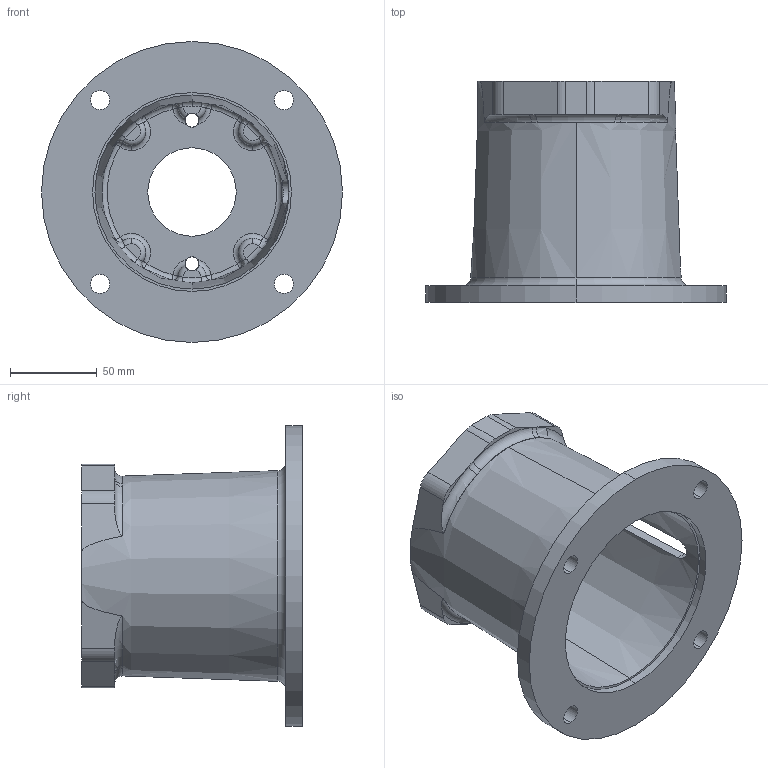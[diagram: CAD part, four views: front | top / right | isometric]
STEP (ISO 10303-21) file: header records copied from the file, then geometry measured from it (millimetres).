
FILE_DESCRIPTION (( 'STEP AP203' ), '1' );
FILE_NAME ('M056502AA.STEP', '2008-05-16T19:22:38', ( 'Chris McCoy' ), ( 'Magnaloy Coupling Co' ), 'SwSTEP 2.0', 'SolidWorks 2008', '' );
FILE_SCHEMA (( 'CONFIG_CONTROL_DESIGN' ));
Length unit declared in the file: inch
Products named in the file (1): M056502AA
Bounding box: 172.97 x 127 x 172.97 mm (x, y, z)
Volume: 414107.3 mm3; surface area: 132605.9 mm2
Topology: 1 solids, 1 shells, 180 faces, 460 edges, 271 vertices
Faces by surface type: torus 59, plane 29, cylinder 28, bspline 28, sphere 24, cone 12
Entity records: 7225 total; most frequent: CARTESIAN_POINT 2884, DIRECTION 956, ORIENTED_EDGE 896, EDGE_CURVE 448, AXIS2_PLACEMENT_3D 443, CIRCLE 290, VERTEX_POINT 271, EDGE_LOOP 197
